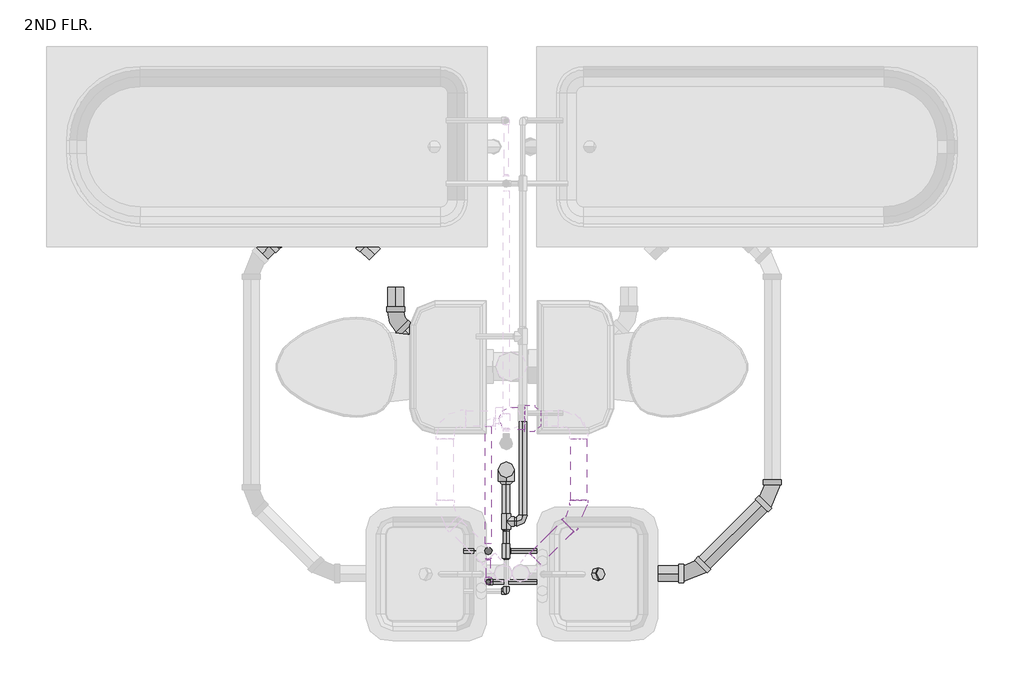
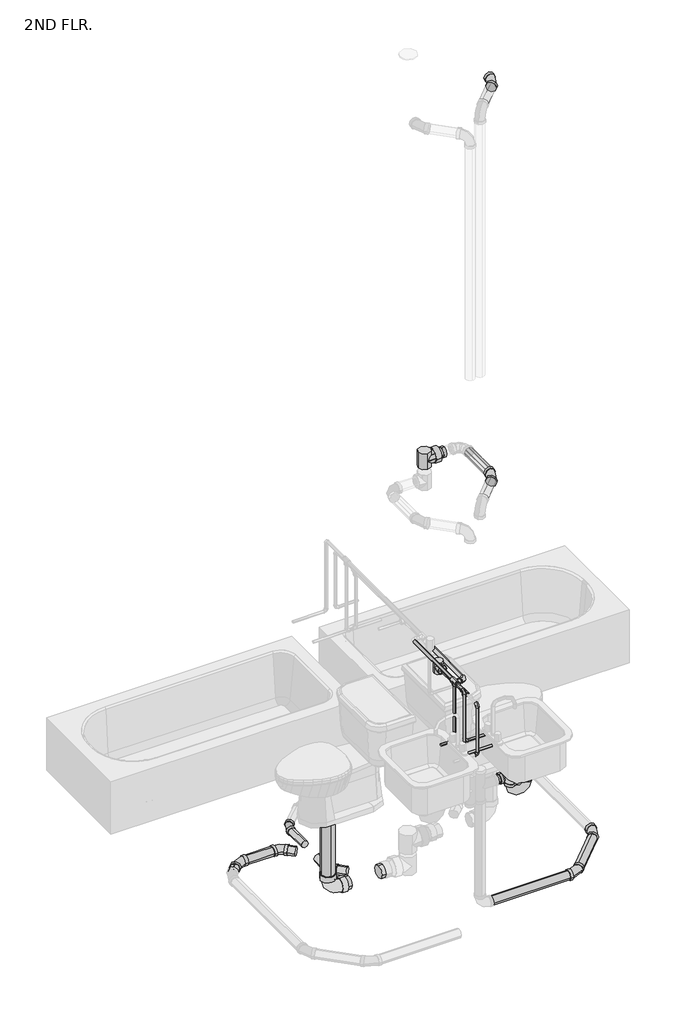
# One storey, part 10 of 15: 31 pipe segments, 29 pipe fittings.
"""IFC4 building model written with IfcOpenShell, lengths in millimetres."""

from ifc_helpers import new_model, si_unit, point, frame, frame_2d, origin, place, context, project, spatial, circle_curve, trimmed, segment, composite_curve, outline, extrude, transform, mapped, element, save
from components import bend_pvc_sch_40_dwv_standard_e59a9f3a, bend_pvc_sch_40_dwv_standard_f2f5988a, bend_pvc_sch_40_dwv_standard_dc84db8a, bend_pvc_sch_40_dwv_standard_64a347df, bend_pvc_sch_40_dwv_standard_72717ed5, bend_pvc_sch_40_dwv_standard_f64d1520, pipe_elbow_copper_k_aad62f2d, pipe_elbow_copper_k_a25a5501, pipe_tee_copper_k_36278b8a, pipe_tee_copper_k_ee363fbf, pipe_tee_copper_k_feafe2f1, pipe_tee_copper_k_8ae7f23d, pipe_transition_copper_k_859ff352, pipe_transition_copper_k_b4f16853, pipe_transition_copper_k_5cd7eb3f, reducer_pvc_sch_40_dwv_standard_464ee0c2, standard_8c31f35f

model = new_model("IFC4")

# Units and contexts
model_context = context("Model", 3, world=origin())
ifc_project = project(units=[si_unit("LENGTHUNIT", "METRE", prefix="MILLI")], contexts=[model_context])

# Site, building, storey
site = spatial("IfcSite", under=ifc_project)
building = spatial("IfcBuilding", under=site)
storey = spatial("IfcBuildingStorey", under=building, Name="2ND FLR.", Elevation=2844.8)

# Pipe fittings
placement = place(None, origin())
bend_pvc_sch_40_dwv_standard_shape = bend_pvc_sch_40_dwv_standard_e59a9f3a(model_context)
element("IfcPipeFitting", 1, ObjectType="Bend - PVC - Sch 40 - DWV : Standard", at=placement, inside=storey, context=model_context, shape_type="MappedRepresentation", body=[
    mapped(bend_pvc_sch_40_dwv_standard_shape, transform((16500.2806203, 3984.74622, 2302.6025627), x_axis=(-0.7071067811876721, -0.7071067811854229, 0.0), y_axis=(0.7071067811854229, -0.7071067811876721, 0.0), z_axis=(0.0, 0.0, 1.0))),
])
bend_pvc_sch_40_dwv_standard_2_shape = bend_pvc_sch_40_dwv_standard_f2f5988a(model_context)
element("IfcPipeFitting", 2, ObjectType="Bend - PVC - Sch 40 - DWV : Standard", at=placement, inside=storey, context=model_context, shape_type="MappedRepresentation", body=[
    mapped(bend_pvc_sch_40_dwv_standard_2_shape, transform((16059.6819172, 3819.5043328, 2302.6162639), x_axis=(-1.0, 0.0, 0.0), y_axis=(0.0, -1.0, 0.0), z_axis=(0.0, 0.0, 1.0))),
])
bend_pvc_sch_40_dwv_standard_3_shape = bend_pvc_sch_40_dwv_standard_dc84db8a(model_context)
element("IfcPipeFitting", 3, ObjectType="Bend - PVC - Sch 40 - DWV : Standard", at=placement, inside=storey, context=model_context, shape_type="MappedRepresentation", body=[
    mapped(bend_pvc_sch_40_dwv_standard_3_shape, transform((16389.9214747, 3321.8387881, 2301.0059441), x_axis=(-0.9999739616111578, 0.0, -0.0072163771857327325), y_axis=(-0.0072163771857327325, 0.0, 0.9999739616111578), z_axis=(0.0, 1.0, 0.0))),
])
bend_pvc_sch_40_dwv_standard_4_shape = bend_pvc_sch_40_dwv_standard_64a347df(model_context)
element("IfcPipeFitting", 4, ObjectType="Bend - PVC - Sch 40 - DWV : Standard", at=placement, inside=storey, context=model_context, shape_type="MappedRepresentation", body=[
    mapped(bend_pvc_sch_40_dwv_standard_4_shape, transform((16500.2806203, 3498.1957368, 2302.6025627), x_axis=(0.0, -1.0, 0.0), y_axis=(0.9999186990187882, 0.0, 0.012751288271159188), z_axis=(-0.012751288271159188, 0.0, 0.9999186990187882))),
])
bend_pvc_sch_40_dwv_standard_5_shape = bend_pvc_sch_40_dwv_standard_72717ed5(model_context)
element("IfcPipeFitting", 5, ObjectType="Bend - PVC - Sch 40 - DWV : Standard", at=placement, inside=storey, context=model_context, shape_type="MappedRepresentation", body=[
    mapped(bend_pvc_sch_40_dwv_standard_5_shape, transform((16349.8654903, 3819.5043328, 2302.6162639), x_axis=(-0.7071067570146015, 0.7071067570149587, 0.00026147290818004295), y_axis=(-0.707106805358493, -0.7071067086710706, -0.0002614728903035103), z_axis=(0.0, -0.00036977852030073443, 0.9999999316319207))),
])
bend_pvc_sch_40_dwv_standard_6_shape = bend_pvc_sch_40_dwv_standard_f64d1520(model_context)
element("IfcPipeFitting", 6, ObjectType="Bend - PVC - Sch 40 - DWV : Standard", at=placement, inside=storey, context=model_context, shape_type="MappedRepresentation", body=[
    mapped(bend_pvc_sch_40_dwv_standard_6_shape, transform((17633.9937605, 2535.4334772, 2461.1578227), x_axis=(-0.70710678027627, -0.7071067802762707, -5.074103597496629e-05), y_axis=(0.7071067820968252, -0.7071067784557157, -5.074103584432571e-05), z_axis=(0.0, -7.175866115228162e-05, 0.9999999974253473))),
])
element("IfcPipeFitting", 7, ObjectType="Bend - PVC - Sch 40 - DWV : Standard", at=placement, inside=storey, context=model_context, shape_type="MappedRepresentation", body=[
    mapped(bend_pvc_sch_40_dwv_standard_6_shape, transform((17932.9116554, 2834.3513728, 2461.1421724), x_axis=(0.0, -1.0, 0.0), y_axis=(0.9999999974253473, 0.0, -7.175866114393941e-05), z_axis=(7.175866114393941e-05, 0.0, 0.9999999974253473))),
])
element("IfcPipeFitting", 8, ObjectType="Bend - PVC - Sch 40 - DWV : Standard", at=placement, inside=storey, context=model_context, shape_type="MappedRepresentation", body=[
    mapped(bend_pvc_sch_40_dwv_standard_6_shape, transform((17196.3084874, 2755.8988068, 8191.4918111), x_axis=(2.761384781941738e-10, -0.9999999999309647, 1.1750347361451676e-05), y_axis=(0.9999999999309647, 1.3806781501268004e-10, -1.1750347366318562e-05), z_axis=(1.1750347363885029e-05, 1.175034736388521e-05, 0.9999999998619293))),
])
element("IfcPipeFitting", 9, ObjectType="Bend - PVC - Sch 40 - DWV : Standard", at=placement, inside=storey, context=model_context, shape_type="MappedRepresentation", body=[
    mapped(bend_pvc_sch_40_dwv_standard_6_shape, transform((17196.3084882, 2756.7793027, 5340.4113469), x_axis=(2.761384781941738e-10, -0.9999999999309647, 1.1750347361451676e-05), y_axis=(0.9999999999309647, 1.3806781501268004e-10, -1.1750347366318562e-05), z_axis=(1.1750347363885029e-05, 1.175034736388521e-05, 0.9999999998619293))),
])
pipe_elbow_copper_k_shape = pipe_elbow_copper_k_aad62f2d(model_context)
element("IfcPipeFitting", 10, ObjectType="Pipe Elbow : Copper- K", at=placement, inside=storey, context=model_context, shape_type="MappedRepresentation", body=[
    mapped(pipe_elbow_copper_k_shape, transform((16920.4834875, 2468.1949561, 3962.4), x_axis=(0.0, -1.0, 0.0), y_axis=(0.0, 0.0, -1.0), z_axis=(1.0, 0.0, 0.0))),
])
element("IfcPipeFitting", 11, ObjectType="Pipe Elbow : Copper- K", at=placement, inside=storey, context=model_context, shape_type="MappedRepresentation", body=[
    mapped(pipe_elbow_copper_k_shape, transform((16920.4834875, 2468.1949561, 3606.8), x_axis=(0.0, 0.0, -1.0), y_axis=(-1.0, 0.0, 0.0), z_axis=(0.0, 1.0, 0.0))),
])
element("IfcPipeFitting", 12, ObjectType="Pipe Elbow : Copper- K", at=placement, inside=storey, context=model_context, shape_type="MappedRepresentation", body=[
    mapped(pipe_elbow_copper_k_shape, transform((16920.4834875, 2620.8535326, 3606.8), x_axis=(0.0, 0.0, -1.0), y_axis=(1.0, 0.0, 0.0), z_axis=(0.0, -1.0, 0.0))),
])
element("IfcPipeFitting", 13, ObjectType="Pipe Elbow : Copper- K", at=placement, inside=storey, context=model_context, shape_type="MappedRepresentation", body=[
    mapped(pipe_elbow_copper_k_shape, transform((16852.2209875, 2503.1307452, 4064.0), x_axis=(0.0, -1.0, 0.0), y_axis=(0.0, 0.0, -1.0), z_axis=(1.0, 0.0, 0.0))),
])
element("IfcPipeFitting", 14, ObjectType="Pipe Elbow : Copper- K", at=placement, inside=storey, context=model_context, shape_type="MappedRepresentation", body=[
    mapped(pipe_elbow_copper_k_shape, transform((16852.2209875, 2503.1307452, 3606.8), x_axis=(0.0, 0.0, -1.0), y_axis=(1.0, 0.0, 0.0), z_axis=(0.0, -1.0, 0.0))),
])
element("IfcPipeFitting", 15, ObjectType="Pipe Elbow : Copper- K", at=placement, inside=storey, context=model_context, shape_type="MappedRepresentation", body=[
    mapped(pipe_elbow_copper_k_shape, transform((16852.2209875, 2620.8535326, 3637.2601563), x_axis=(0.0, 0.0, -1.0), y_axis=(-1.0, 0.0, 0.0), z_axis=(0.0, 1.0, 0.0))),
])
pipe_elbow_copper_k_2_shape = pipe_elbow_copper_k_a25a5501(model_context)
element("IfcPipeFitting", 16, ObjectType="Pipe Elbow : Copper- K", at=placement, inside=storey, context=model_context, shape_type="MappedRepresentation", body=[
    mapped(pipe_elbow_copper_k_2_shape, transform((16983.9834875, 2733.1182853, 3962.4), x_axis=(1.0, 0.0, 0.0), y_axis=(0.0, 1.0, 0.0), z_axis=(0.0, 0.0, 1.0))),
])
pipe_tee_copper_k_shape = pipe_tee_copper_k_36278b8a(model_context)
element("IfcPipeFitting", 17, ObjectType="Pipe Tee : Copper- K", at=placement, inside=storey, context=model_context, shape_type="MappedRepresentation", body=[
    mapped(pipe_tee_copper_k_shape, transform((16920.4834875, 2929.398977, 3962.4), x_axis=(0.0, 0.0, 1.0), y_axis=(0.0, 1.0, 0.0), z_axis=(-1.0, 0.0, 0.0))),
])
pipe_tee_copper_k_2_shape = pipe_tee_copper_k_ee363fbf(model_context)
element("IfcPipeFitting", 18, ObjectType="Pipe Tee : Copper- K", at=placement, inside=storey, context=model_context, shape_type="MappedRepresentation", body=[
    mapped(pipe_tee_copper_k_2_shape, transform((16920.4834875, 2620.8535326, 3962.4), x_axis=(0.0, 1.0, 0.0), y_axis=(0.0, 0.0, 1.0), z_axis=(1.0, 0.0, 0.0))),
])
element("IfcPipeFitting", 19, ObjectType="Pipe Tee : Copper- K", at=placement, inside=storey, context=model_context, shape_type="MappedRepresentation", body=[
    mapped(pipe_tee_copper_k_2_shape, transform((16852.2209875, 2620.8535326, 4064.0), x_axis=(0.0, 1.0, 0.0), y_axis=(0.0, 0.0, 1.0), z_axis=(1.0, 0.0, 0.0))),
])
pipe_tee_copper_k_3_shape = pipe_tee_copper_k_feafe2f1(model_context)
element("IfcPipeFitting", 20, ObjectType="Pipe Tee : Copper- K", at=placement, inside=storey, context=model_context, shape_type="MappedRepresentation", body=[
    mapped(pipe_tee_copper_k_3_shape, transform((16920.4834875, 2733.1182853, 3962.4), x_axis=(0.0, 1.0, 0.0), y_axis=(-1.0, 0.0, 0.0), z_axis=(0.0, 0.0, 1.0))),
])
pipe_tee_copper_k_4_shape = pipe_tee_copper_k_8ae7f23d(model_context)
element("IfcPipeFitting", 21, ObjectType="Pipe Tee : Standard", at=placement, inside=storey, context=model_context, shape_type="MappedRepresentation", body=[
    mapped(pipe_tee_copper_k_4_shape, transform((16935.7559337, 3124.1638117, 5340.35), x_axis=(0.0, 0.0, 1.0), y_axis=(1.0, 0.0, 0.0), z_axis=(0.0, 1.0, 0.0))),
])
pipe_transition_copper_k_shape = pipe_transition_copper_k_859ff352(model_context)
element("IfcPipeFitting", 22, ObjectType="Pipe Transition : Copper- K", at=placement, inside=storey, context=model_context, shape_type="MappedRepresentation", body=[
    mapped(pipe_transition_copper_k_shape, transform((16920.4834875, 2620.8535326, 3935.4125), x_axis=(0.0, 0.0, -1.0), y_axis=(0.0, 1.0, 0.0), z_axis=(1.0, 0.0, 0.0))),
])
element("IfcPipeFitting", 23, ObjectType="Pipe Transition : Copper- K", at=placement, inside=storey, context=model_context, shape_type="MappedRepresentation", body=[
    mapped(pipe_transition_copper_k_shape, transform((16920.4834875, 2593.8660326, 3962.4), x_axis=(0.0, -1.0, 0.0), y_axis=(1.0, 0.0, 0.0), z_axis=(0.0, 0.0, 1.0))),
])
element("IfcPipeFitting", 24, ObjectType="Pipe Transition : Copper- K", at=placement, inside=storey, context=model_context, shape_type="MappedRepresentation", body=[
    mapped(pipe_transition_copper_k_shape, transform((16852.2209875, 2620.8535326, 4037.0125), x_axis=(0.0, 0.0, -1.0), y_axis=(0.0, -1.0, 0.0), z_axis=(-1.0, 0.0, 0.0))),
])
element("IfcPipeFitting", 25, ObjectType="Pipe Transition : Copper- K", at=placement, inside=storey, context=model_context, shape_type="MappedRepresentation", body=[
    mapped(pipe_transition_copper_k_shape, transform((16852.2209875, 2593.8660326, 4064.0), x_axis=(0.0, -1.0, 0.0), y_axis=(1.0, 0.0, 0.0), z_axis=(0.0, 0.0, 1.0))),
])
pipe_transition_copper_k_2_shape = pipe_transition_copper_k_b4f16853(model_context)
element("IfcPipeFitting", 26, ObjectType="Pipe Transition : Copper- K", at=placement, inside=storey, context=model_context, shape_type="MappedRepresentation", body=[
    mapped(pipe_transition_copper_k_2_shape, transform((16920.4834875, 2702.9557853, 3962.4), x_axis=(0.0, -1.0, 0.0), y_axis=(1.0, 0.0, 0.0), z_axis=(0.0, 0.0, 1.0))),
])
pipe_transition_copper_k_3_shape = pipe_transition_copper_k_5cd7eb3f(model_context)
element("IfcPipeFitting", 27, ObjectType="Pipe Transition : Copper- K", at=placement, inside=storey, context=model_context, shape_type="MappedRepresentation", body=[
    mapped(pipe_transition_copper_k_3_shape, transform((16920.4834875, 2886.536477, 3962.4), x_axis=(0.0, -1.0, 0.0), y_axis=(1.0, 0.0, 0.0), z_axis=(0.0, 0.0, 1.0))),
])
reducer_pvc_sch_40_dwv_standard_shape = reducer_pvc_sch_40_dwv_standard_464ee0c2(model_context)
element("IfcPipeFitting", 28, ObjectType="Reducer - PVC - Sch 40 - DWV : Standard", at=placement, inside=storey, context=model_context, shape_type="MappedRepresentation", body=[
    mapped(reducer_pvc_sch_40_dwv_standard_shape, transform((16991.3184337, 3124.2879719, 5340.4070012), x_axis=(1.0, 0.0, 0.0), y_axis=(0.0, 1.0, 0.0), z_axis=(0.0, 0.0, 1.0))),
])
standard_shape = standard_8c31f35f(model_context)
element("IfcPipeFitting", 29, ObjectType="GES P TRAP PVC Sch 40 - DWV : Standard", at=placement, inside=storey, context=model_context, shape_type="MappedRepresentation", body=[
    mapped(standard_shape, transform((17295.2470106, 2535.4334771, 3322.6721683), x_axis=(0.0, 0.0, -1.0), y_axis=(1.0, 0.0, 0.0), z_axis=(0.0, -1.0, 0.0))),
])

# Pipe segments
element("IfcPipeSegment", 30, ObjectType="Copper", at=placement, inside=storey, context=model_context, shape_type="SweptSolid", body=[
    extrude(outline(composite_curve([segment(trimmed(circle_curve(frame_2d((16920.4834875, 2468.1949561)), 7.9375), [point((16928.4209875, 2468.1949561))], [point((16920.4834875, 2460.2574561))], False, "CARTESIAN"), True, "CONTINUOUS"), segment(trimmed(circle_curve(frame_2d((16920.4834875, 2468.1949561)), 7.9375), [point((16920.4834875, 2460.2574561))], [point((16912.5459875, 2468.1949561))], False, "CARTESIAN"), True, "CONTINUOUS"), segment(trimmed(circle_curve(frame_2d((16920.4834875, 2468.1949561)), 7.9375), [point((16912.5459875, 2468.1949561))], [point((16920.4834875, 2476.1324561))], False, "CARTESIAN"), True, "CONTINUOUS"), segment(trimmed(circle_curve(frame_2d((16920.4834875, 2468.1949561)), 7.9375), [point((16920.4834875, 2476.1324561))], [point((16928.4209875, 2468.1949561))], False, "CARTESIAN"), True, "CONTINUOUS")], self_intersect=False)), frame((0.0, 0.0, 3624.2625), z_axis=(0.0, 0.0, 1.0), x_axis=(1.0, 0.0, 0.0)), (0.0, 0.0, 1.0), 320.675),
])
element("IfcPipeSegment", 31, ObjectType="Copper", at=placement, inside=storey, context=model_context, shape_type="SweptSolid", body=[
    extrude(outline(composite_curve([segment(trimmed(circle_curve(frame_2d((2620.8535326, 3606.8)), 7.9375), [point((2612.9160326, 3606.8))], [point((2620.8535326, 3614.7375))], False, "CARTESIAN"), True, "CONTINUOUS"), segment(trimmed(circle_curve(frame_2d((2620.8535326, 3606.8)), 7.9375), [point((2620.8535326, 3614.7375))], [point((2628.7910326, 3606.8))], False, "CARTESIAN"), True, "CONTINUOUS"), segment(trimmed(circle_curve(frame_2d((2620.8535326, 3606.8)), 7.9375), [point((2628.7910326, 3606.8))], [point((2620.8535326, 3598.8625))], False, "CARTESIAN"), True, "CONTINUOUS"), segment(trimmed(circle_curve(frame_2d((2620.8535326, 3606.8)), 7.9375), [point((2620.8535326, 3598.8625))], [point((2612.9160326, 3606.8))], False, "CARTESIAN"), True, "CONTINUOUS")], self_intersect=False)), frame((16937.9459875, 0.0, 0.0), z_axis=(1.0, 0.0, 0.0), x_axis=(0.0, 1.0, 0.0)), (0.0, 0.0, 1.0), 133.35),
])
element("IfcPipeSegment", 32, ObjectType="Copper", at=placement, inside=storey, context=model_context, shape_type="SweptSolid", body=[
    extrude(outline(composite_curve([segment(trimmed(circle_curve(frame_2d((16920.4834875, 2620.8535326)), 7.9375), [point((16928.4209875, 2620.8535326))], [point((16920.4834875, 2612.9160326))], False, "CARTESIAN"), True, "CONTINUOUS"), segment(trimmed(circle_curve(frame_2d((16920.4834875, 2620.8535326)), 7.9375), [point((16920.4834875, 2612.9160326))], [point((16912.5459875, 2620.8535326))], False, "CARTESIAN"), True, "CONTINUOUS"), segment(trimmed(circle_curve(frame_2d((16920.4834875, 2620.8535326)), 7.9375), [point((16912.5459875, 2620.8535326))], [point((16920.4834875, 2628.7910326))], False, "CARTESIAN"), True, "CONTINUOUS"), segment(trimmed(circle_curve(frame_2d((16920.4834875, 2620.8535326)), 7.9375), [point((16920.4834875, 2628.7910326))], [point((16928.4209875, 2620.8535326))], False, "CARTESIAN"), True, "CONTINUOUS")], self_intersect=False)), frame((0.0, 0.0, 3624.2625), z_axis=(0.0, 0.0, 1.0), x_axis=(1.0, 0.0, 0.0)), (0.0, 0.0, 1.0), 305.59375),
])
element("IfcPipeSegment", 33, ObjectType="Copper", at=placement, inside=storey, context=model_context, shape_type="SweptSolid", body=[
    extrude(outline(composite_curve([segment(trimmed(circle_curve(frame_2d((3962.4, 16920.4834875)), 11.1125), [point((3962.4, 16909.3709875))], [point((3951.2875, 16920.4834875))], False, "CARTESIAN"), True, "CONTINUOUS"), segment(trimmed(circle_curve(frame_2d((3962.4, 16920.4834875)), 11.1125), [point((3951.2875, 16920.4834875))], [point((3962.4, 16931.5959875))], False, "CARTESIAN"), True, "CONTINUOUS"), segment(trimmed(circle_curve(frame_2d((3962.4, 16920.4834875)), 11.1125), [point((3962.4, 16931.5959875))], [point((3973.5125, 16920.4834875))], False, "CARTESIAN"), True, "CONTINUOUS"), segment(trimmed(circle_curve(frame_2d((3962.4, 16920.4834875)), 11.1125), [point((3973.5125, 16920.4834875))], [point((3962.4, 16909.3709875))], False, "CARTESIAN"), True, "CONTINUOUS")], self_intersect=False)), frame((0.0, 2647.8410326, 0.0), z_axis=(0.0, 1.0, 0.0), x_axis=(0.0, 0.0, 1.0)), (0.0, 0.0, 1.0), 47.9710027),
])
element("IfcPipeSegment", 34, ObjectType="Copper", at=placement, inside=storey, context=model_context, shape_type="SweptSolid", body=[
    extrude(outline(composite_curve([segment(trimmed(circle_curve(frame_2d((4064.0, 16852.2209875)), 7.9375), [point((4064.0, 16844.2834875))], [point((4056.0625, 16852.2209875))], False, "CARTESIAN"), True, "CONTINUOUS"), segment(trimmed(circle_curve(frame_2d((4064.0, 16852.2209875)), 7.9375), [point((4056.0625, 16852.2209875))], [point((4064.0, 16860.1584875))], False, "CARTESIAN"), True, "CONTINUOUS"), segment(trimmed(circle_curve(frame_2d((4064.0, 16852.2209875)), 7.9375), [point((4064.0, 16860.1584875))], [point((4071.9375, 16852.2209875))], False, "CARTESIAN"), True, "CONTINUOUS"), segment(trimmed(circle_curve(frame_2d((4064.0, 16852.2209875)), 7.9375), [point((4071.9375, 16852.2209875))], [point((4064.0, 16844.2834875))], False, "CARTESIAN"), True, "CONTINUOUS")], self_intersect=False)), frame((0.0, 2520.5932452, 0.0), z_axis=(0.0, 1.0, 0.0), x_axis=(0.0, 0.0, 1.0)), (0.0, 0.0, 1.0), 67.7165373),
])
element("IfcPipeSegment", 35, ObjectType="Copper", at=placement, inside=storey, context=model_context, shape_type="SweptSolid", body=[
    extrude(outline(composite_curve([segment(trimmed(circle_curve(frame_2d((2503.1307452, 3606.8)), 7.9375), [point((2495.1932452, 3606.8))], [point((2503.1307452, 3614.7375))], False, "CARTESIAN"), True, "CONTINUOUS"), segment(trimmed(circle_curve(frame_2d((2503.1307452, 3606.8)), 7.9375), [point((2503.1307452, 3614.7375))], [point((2511.0682452, 3606.8))], False, "CARTESIAN"), True, "CONTINUOUS"), segment(trimmed(circle_curve(frame_2d((2503.1307452, 3606.8)), 7.9375), [point((2511.0682452, 3606.8))], [point((2503.1307452, 3598.8625))], False, "CARTESIAN"), True, "CONTINUOUS"), segment(trimmed(circle_curve(frame_2d((2503.1307452, 3606.8)), 7.9375), [point((2503.1307452, 3598.8625))], [point((2495.1932452, 3606.8))], False, "CARTESIAN"), True, "CONTINUOUS")], self_intersect=False)), frame((16869.6834875, 0.0, 0.0), z_axis=(1.0, 0.0, 0.0), x_axis=(0.0, 1.0, 0.0)), (0.0, 0.0, 1.0), 166.6875),
])
element("IfcPipeSegment", 36, ObjectType="Copper", at=placement, inside=storey, context=model_context, shape_type="SweptSolid", body=[
    extrude(outline(composite_curve([segment(trimmed(circle_curve(frame_2d((16852.2209875, 2503.1307452)), 7.9375), [point((16860.1584875, 2503.1307452))], [point((16852.2209875, 2495.1932452))], False, "CARTESIAN"), True, "CONTINUOUS"), segment(trimmed(circle_curve(frame_2d((16852.2209875, 2503.1307452)), 7.9375), [point((16852.2209875, 2495.1932452))], [point((16844.2834875, 2503.1307452))], False, "CARTESIAN"), True, "CONTINUOUS"), segment(trimmed(circle_curve(frame_2d((16852.2209875, 2503.1307452)), 7.9375), [point((16844.2834875, 2503.1307452))], [point((16852.2209875, 2511.0682452))], False, "CARTESIAN"), True, "CONTINUOUS"), segment(trimmed(circle_curve(frame_2d((16852.2209875, 2503.1307452)), 7.9375), [point((16852.2209875, 2511.0682452))], [point((16860.1584875, 2503.1307452))], False, "CARTESIAN"), True, "CONTINUOUS")], self_intersect=False)), frame((0.0, 0.0, 3624.2625), z_axis=(0.0, 0.0, 1.0), x_axis=(1.0, 0.0, 0.0)), (0.0, 0.0, 1.0), 422.275),
])
element("IfcPipeSegment", 37, ObjectType="Copper", at=placement, inside=storey, context=model_context, shape_type="SweptSolid", body=[
    extrude(outline(composite_curve([segment(trimmed(circle_curve(frame_2d((2620.8535326, 3637.2601562)), 7.9375), [point((2628.7910326, 3637.2601562))], [point((2620.8535326, 3629.3226562))], False, "CARTESIAN"), True, "CONTINUOUS"), segment(trimmed(circle_curve(frame_2d((2620.8535326, 3637.2601562)), 7.9375), [point((2620.8535326, 3629.3226562))], [point((2612.9160326, 3637.2601562))], False, "CARTESIAN"), True, "CONTINUOUS"), segment(trimmed(circle_curve(frame_2d((2620.8535326, 3637.2601562)), 7.9375), [point((2612.9160326, 3637.2601562))], [point((2620.8535326, 3645.1976562))], False, "CARTESIAN"), True, "CONTINUOUS"), segment(trimmed(circle_curve(frame_2d((2620.8535326, 3637.2601562)), 7.9375), [point((2620.8535326, 3645.1976562))], [point((2628.7910326, 3637.2601562))], False, "CARTESIAN"), True, "CONTINUOUS")], self_intersect=False)), frame((16758.5584875, 0.0, 0.0), z_axis=(1.0, 0.0, 0.0), x_axis=(0.0, 1.0, 0.0)), (0.0, 0.0, 1.0), 76.2),
])
element("IfcPipeSegment", 38, ObjectType="Copper", at=placement, inside=storey, context=model_context, shape_type="SweptSolid", body=[
    extrude(outline(composite_curve([segment(trimmed(circle_curve(frame_2d((16852.2209875, 2620.8535326)), 7.9375), [point((16860.1584875, 2620.8535326))], [point((16852.2209875, 2612.9160326))], False, "CARTESIAN"), True, "CONTINUOUS"), segment(trimmed(circle_curve(frame_2d((16852.2209875, 2620.8535326)), 7.9375), [point((16852.2209875, 2612.9160326))], [point((16844.2834875, 2620.8535326))], False, "CARTESIAN"), True, "CONTINUOUS"), segment(trimmed(circle_curve(frame_2d((16852.2209875, 2620.8535326)), 7.9375), [point((16844.2834875, 2620.8535326))], [point((16852.2209875, 2628.7910326))], False, "CARTESIAN"), True, "CONTINUOUS"), segment(trimmed(circle_curve(frame_2d((16852.2209875, 2620.8535326)), 7.9375), [point((16852.2209875, 2628.7910326))], [point((16860.1584875, 2620.8535326))], False, "CARTESIAN"), True, "CONTINUOUS")], self_intersect=False)), frame((0.0, 0.0, 3654.7226562), z_axis=(0.0, 0.0, 1.0), x_axis=(1.0, 0.0, 0.0)), (0.0, 0.0, 1.0), 376.7335937),
])
element("IfcPipeSegment", 39, ObjectType="Copper", at=placement, inside=storey, context=model_context, shape_type="SweptSolid", body=[
    extrude(outline(composite_curve([segment(trimmed(circle_curve(frame_2d((4064.0, 16852.2209875)), 11.1125), [point((4064.0, 16841.1084875))], [point((4052.8875, 16852.2209875))], False, "CARTESIAN"), True, "CONTINUOUS"), segment(trimmed(circle_curve(frame_2d((4064.0, 16852.2209875)), 11.1125), [point((4052.8875, 16852.2209875))], [point((4064.0, 16863.3334875))], False, "CARTESIAN"), True, "CONTINUOUS"), segment(trimmed(circle_curve(frame_2d((4064.0, 16852.2209875)), 11.1125), [point((4064.0, 16863.3334875))], [point((4075.1125, 16852.2209875))], False, "CARTESIAN"), True, "CONTINUOUS"), segment(trimmed(circle_curve(frame_2d((4064.0, 16852.2209875)), 11.1125), [point((4075.1125, 16852.2209875))], [point((4064.0, 16841.1084875))], False, "CARTESIAN"), True, "CONTINUOUS")], self_intersect=False)), frame((0.0, 2647.8410326, 0.0), z_axis=(0.0, 1.0, 0.0), x_axis=(0.0, 0.0, 1.0)), (0.0, 0.0, 1.0), 446.7666062),
])
element("IfcPipeSegment", 40, ObjectType="Copper", at=placement, inside=storey, context=model_context, shape_type="SweptSolid", body=[
    extrude(outline(composite_curve([segment(trimmed(circle_curve(frame_2d((2733.1182853, 3962.4)), 14.2875), [point((2718.8307853, 3962.4))], [point((2733.1182853, 3976.6875))], False, "CARTESIAN"), True, "CONTINUOUS"), segment(trimmed(circle_curve(frame_2d((2733.1182853, 3962.4)), 14.2875), [point((2733.1182853, 3976.6875))], [point((2747.4057853, 3962.4))], False, "CARTESIAN"), True, "CONTINUOUS"), segment(trimmed(circle_curve(frame_2d((2733.1182853, 3962.4)), 14.2875), [point((2747.4057853, 3962.4))], [point((2733.1182853, 3948.1125))], False, "CARTESIAN"), True, "CONTINUOUS"), segment(trimmed(circle_curve(frame_2d((2733.1182853, 3962.4)), 14.2875), [point((2733.1182853, 3948.1125))], [point((2718.8307853, 3962.4))], False, "CARTESIAN"), True, "CONTINUOUS")], self_intersect=False)), frame((16950.6459875, 0.0, 0.0), z_axis=(1.0, 0.0, 0.0), x_axis=(0.0, 1.0, 0.0)), (0.0, 0.0, 1.0), 9.525),
])
element("IfcPipeSegment", 41, ObjectType="Copper", at=placement, inside=storey, context=model_context, shape_type="SweptSolid", body=[
    extrude(outline(composite_curve([segment(trimmed(circle_curve(frame_2d((3962.4, 16920.4834875)), 14.2875), [point((3962.4, 16934.7709875))], [point((3976.6875, 16920.4834875))], False, "CARTESIAN"), True, "CONTINUOUS"), segment(trimmed(circle_curve(frame_2d((3962.4, 16920.4834875)), 14.2875), [point((3976.6875, 16920.4834875))], [point((3962.4, 16906.1959875))], False, "CARTESIAN"), True, "CONTINUOUS"), segment(trimmed(circle_curve(frame_2d((3962.4, 16920.4834875)), 14.2875), [point((3962.4, 16906.1959875))], [point((3948.1125, 16920.4834875))], False, "CARTESIAN"), True, "CONTINUOUS"), segment(trimmed(circle_curve(frame_2d((3962.4, 16920.4834875)), 14.2875), [point((3948.1125, 16920.4834875))], [point((3962.4, 16934.7709875))], False, "CARTESIAN"), True, "CONTINUOUS")], self_intersect=False)), frame((0.0, 2763.2807853, 0.0), z_axis=(0.0, 1.0, 0.0), x_axis=(0.0, 0.0, 1.0)), (0.0, 0.0, 1.0), 109.7619417),
])
element("IfcPipeSegment", 42, ObjectType="Copper", at=placement, inside=storey, context=model_context, shape_type="SweptSolid", body=[
    extrude(outline(composite_curve([segment(trimmed(circle_curve(frame_2d((3962.4, 16983.9834875)), 14.2875), [point((3962.4, 16998.2709875))], [point((3976.6875, 16983.9834875))], False, "CARTESIAN"), True, "CONTINUOUS"), segment(trimmed(circle_curve(frame_2d((3962.4, 16983.9834875)), 14.2875), [point((3976.6875, 16983.9834875))], [point((3962.4, 16969.6959875))], False, "CARTESIAN"), True, "CONTINUOUS"), segment(trimmed(circle_curve(frame_2d((3962.4, 16983.9834875)), 14.2875), [point((3962.4, 16969.6959875))], [point((3948.1125, 16983.9834875))], False, "CARTESIAN"), True, "CONTINUOUS"), segment(trimmed(circle_curve(frame_2d((3962.4, 16983.9834875)), 14.2875), [point((3948.1125, 16983.9834875))], [point((3962.4, 16998.2709875))], False, "CARTESIAN"), True, "CONTINUOUS")], self_intersect=False)), frame((0.0, 2756.9307853, 0.0), z_axis=(0.0, 1.0, 0.0), x_axis=(0.0, 0.0, 1.0)), (0.0, 0.0, 1.0), 357.7813964),
])
element("IfcPipeSegment", 43, ObjectType="PVC - SAN/STORM", at=placement, inside=storey, context=model_context, shape_type="SweptSolid", body=[
    extrude(outline(composite_curve([segment(trimmed(circle_curve(frame_2d((17295.2470106, 2535.781534)), 30.1625), [point((17265.0845106, 2535.781534))], [point((17295.2470106, 2565.944034))], False, "CARTESIAN"), True, "CONTINUOUS"), segment(trimmed(circle_curve(frame_2d((17295.2470106, 2535.781534)), 30.1625), [point((17295.2470106, 2565.944034))], [point((17325.4095106, 2535.781534))], False, "CARTESIAN"), True, "CONTINUOUS"), segment(trimmed(circle_curve(frame_2d((17295.2470106, 2535.781534)), 30.1625), [point((17325.4095106, 2535.781534))], [point((17295.2470106, 2505.619034))], False, "CARTESIAN"), True, "CONTINUOUS"), segment(trimmed(circle_curve(frame_2d((17295.2470106, 2535.781534)), 30.1625), [point((17295.2470106, 2505.619034))], [point((17265.0845106, 2535.781534))], False, "CARTESIAN"), True, "CONTINUOUS")], self_intersect=False)), frame((0.0, 0.0, 3275.0471683), z_axis=(0.0, 0.0, 1.0), x_axis=(1.0, 0.0, 0.0)), (0.0, 0.0, 1.0), 143.9539175),
])
element("IfcPipeSegment", 44, ObjectType="PVC - SAN/STORM", at=placement, inside=storey, context=model_context, shape_type="SweptSolid", body=[
    extrude(outline(composite_curve([segment(trimmed(circle_curve(frame_2d((2535.4334771, 3322.6721683)), 30.1625), [point((2565.5959771, 3322.6721683))], [point((2535.4334771, 3292.5096683))], False, "CARTESIAN"), True, "CONTINUOUS"), segment(trimmed(circle_curve(frame_2d((2535.4334771, 3322.6721683)), 30.1625), [point((2535.4334771, 3292.5096683))], [point((2505.2709771, 3322.6721683))], False, "CARTESIAN"), True, "CONTINUOUS"), segment(trimmed(circle_curve(frame_2d((2535.4334771, 3322.6721683)), 30.1625), [point((2505.2709771, 3322.6721683))], [point((2535.4334771, 3352.8346683))], False, "CARTESIAN"), True, "CONTINUOUS"), segment(trimmed(circle_curve(frame_2d((2535.4334771, 3322.6721683)), 30.1625), [point((2535.4334771, 3352.8346683))], [point((2565.5959771, 3322.6721683))], False, "CARTESIAN"), True, "CONTINUOUS")], self_intersect=False)), frame((17088.6830071, 0.0, 0.0), z_axis=(1.0, 0.0, 0.0), x_axis=(0.0, 1.0, 0.0)), (0.0, 0.0, 1.0), 14.4765036),
])
element("IfcPipeSegment", 45, ObjectType="PVC - SAN/STORM", at=placement, inside=storey, context=model_context, shape_type="SweptSolid", body=[
    extrude(outline(composite_curve([segment(trimmed(circle_curve(frame_2d((17295.2470106, 2535.4334771)), 30.1625), [point((17265.0845106, 2535.4334771))], [point((17295.2470106, 2565.5959771))], False, "CARTESIAN"), True, "CONTINUOUS"), segment(trimmed(circle_curve(frame_2d((17295.2470106, 2535.4334771)), 30.1625), [point((17295.2470106, 2565.5959771))], [point((17325.4095106, 2535.4334771))], False, "CARTESIAN"), True, "CONTINUOUS"), segment(trimmed(circle_curve(frame_2d((17295.2470106, 2535.4334771)), 30.1625), [point((17325.4095106, 2535.4334771))], [point((17295.2470106, 2505.2709771))], False, "CARTESIAN"), True, "CONTINUOUS"), segment(trimmed(circle_curve(frame_2d((17295.2470106, 2535.4334771)), 30.1625), [point((17295.2470106, 2505.2709771))], [point((17265.0845106, 2535.4334771))], False, "CARTESIAN"), True, "CONTINUOUS")], self_intersect=False)), frame((0.0, 0.0, 3275.0471683), z_axis=(0.0, 0.0, 1.0), x_axis=(1.0, 0.0, 0.0)), (0.0, 0.0, 1.0), 143.9539175),
])
element("IfcPipeSegment", 46, ObjectType="PVC - SAN/STORM", at=placement, inside=storey, context=model_context, shape_type="SweptSolid", body=[
    extrude(outline(composite_curve([segment(trimmed(circle_curve(frame_2d((2535.4334771, 2461.1578227)), 30.1625), [point((2505.2709771, 2461.1578227))], [point((2535.4334771, 2491.3203227))], False, "CARTESIAN"), True, "CONTINUOUS"), segment(trimmed(circle_curve(frame_2d((2535.4334771, 2461.1578227)), 30.1625), [point((2535.4334771, 2491.3203227))], [point((2565.5959771, 2461.1578227))], False, "CARTESIAN"), True, "CONTINUOUS"), segment(trimmed(circle_curve(frame_2d((2535.4334771, 2461.1578227)), 30.1625), [point((2565.5959771, 2461.1578227))], [point((2535.4334771, 2430.9953227))], False, "CARTESIAN"), True, "CONTINUOUS"), segment(trimmed(circle_curve(frame_2d((2535.4334771, 2461.1578227)), 30.1625), [point((2535.4334771, 2430.9953227))], [point((2505.2709771, 2461.1578227))], False, "CARTESIAN"), True, "CONTINUOUS")], self_intersect=False)), frame((17053.2349258, 0.0, 0.0), z_axis=(1.0, 0.0, 0.0), x_axis=(0.0, 1.0, 0.0)), (0.0, 0.0, 1.0), 523.6088347),
])
element("IfcPipeSegment", 47, ObjectType="PVC - SAN/STORM", at=placement, inside=storey, context=model_context, shape_type="SweptSolid", body=[
    extrude(outline(composite_curve([segment(trimmed(circle_curve(frame_2d((0.0, -30.1625)), 30.1625), [point((30.1625, -30.1640305))], [point((-0.0015304, -60.325))], False, "CARTESIAN"), True, "CONTINUOUS"), segment(trimmed(circle_curve(frame_2d((0.0, -30.1625)), 30.1625), [point((-0.0015304, -60.325))], [point((-30.1624999, -30.1609695))], False, "CARTESIAN"), True, "CONTINUOUS"), segment(trimmed(circle_curve(frame_2d((0.0, -30.1625)), 30.1625), [point((-30.1624999, -30.1609695))], [point((0.0015305, -1e-07))], False, "CARTESIAN"), True, "CONTINUOUS"), segment(trimmed(circle_curve(frame_2d((0.0, -30.1625)), 30.1625), [point((0.0015305, -1e-07))], [point((30.1625, -30.1640305))], False, "CARTESIAN"), True, "CONTINUOUS")], self_intersect=False)), frame((17892.500503, 2793.9423847, 2491.3075722), z_axis=(-0.7071067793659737, -0.7071067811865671, 5.074103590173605e-05), x_axis=(0.7071067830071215, -0.7071067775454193, 5.074103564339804e-05)), (0.0, 0.0, 1.0), 308.4337421),
])
element("IfcPipeSegment", 48, ObjectType="PVC - SAN/STORM", at=placement, inside=storey, context=model_context, shape_type="SweptSolid", body=[
    extrude(outline(composite_curve([segment(trimmed(circle_curve(frame_2d((5340.3411396, 17196.3084874)), 30.1625), [point((5340.3411396, 17226.4709874))], [point((5370.5036396, 17196.3084874))], False, "CARTESIAN"), True, "CONTINUOUS"), segment(trimmed(circle_curve(frame_2d((5340.3411396, 17196.3084874)), 30.1625), [point((5370.5036396, 17196.3084874))], [point((5340.3411396, 17166.1459874))], False, "CARTESIAN"), True, "CONTINUOUS"), segment(trimmed(circle_curve(frame_2d((5340.3411396, 17196.3084874)), 30.1625), [point((5340.3411396, 17166.1459874))], [point((5310.1786396, 17196.3084874))], False, "CARTESIAN"), True, "CONTINUOUS"), segment(trimmed(circle_curve(frame_2d((5340.3411396, 17196.3084874)), 30.1625), [point((5310.1786396, 17196.3084874))], [point((5340.3411396, 17226.4709874))], False, "CARTESIAN"), True, "CONTINUOUS")], self_intersect=False)), frame((0.0, 2813.4570848, 0.0), z_axis=(0.0, 1.0, 0.0), x_axis=(0.0, 0.0, 1.0)), (0.0, 0.0, 1.0), 233.0306862),
])
element("IfcPipeSegment", 49, ObjectType="PVC - SAN/STORM", at=placement, inside=storey, context=model_context, shape_type="SweptSolid", body=[
    extrude(outline(composite_curve([segment(trimmed(circle_curve(frame_2d((0.0, -44.45)), 44.45), [point((0.0, 0.0))], [point((44.45, -44.45))], False, "CARTESIAN"), True, "CONTINUOUS"), segment(trimmed(circle_curve(frame_2d((0.0, -44.45)), 44.45), [point((44.45, -44.45))], [point((0.0, -88.9))], False, "CARTESIAN"), True, "CONTINUOUS"), segment(trimmed(circle_curve(frame_2d((0.0, -44.45)), 44.45), [point((0.0, -88.9))], [point((-44.45, -44.45))], False, "CARTESIAN"), True, "CONTINUOUS"), segment(trimmed(circle_curve(frame_2d((0.0, -44.45)), 44.45), [point((-44.45, -44.45))], [point((0.0, 0.0))], False, "CARTESIAN"), True, "CONTINUOUS")], self_intersect=False)), frame((16736.9609983, 3366.2887881, 2303.5103774), z_axis=(0.9999739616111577, 0.0, 0.007216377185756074), x_axis=(0.007216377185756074, 0.0, -0.9999739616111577)), (0.0, 0.0, 1.0), 27.3516837),
])
element("IfcPipeSegment", 50, ObjectType="PVC - SAN/STORM", at=placement, inside=storey, context=model_context, shape_type="SweptSolid", body=[
    extrude(outline(composite_curve([segment(trimmed(circle_curve(frame_2d((0.0, 44.45)), 44.45), [point((-44.4499999, 44.45))], [point((0.0, 88.9))], False, "CARTESIAN"), True, "CONTINUOUS"), segment(trimmed(circle_curve(frame_2d((0.0, 44.45)), 44.45), [point((0.0, 88.9))], [point((44.45, 44.45))], False, "CARTESIAN"), True, "CONTINUOUS"), segment(trimmed(circle_curve(frame_2d((0.0, 44.45)), 44.45), [point((44.45, 44.45))], [point((0.0, 0.0))], False, "CARTESIAN"), True, "CONTINUOUS"), segment(trimmed(circle_curve(frame_2d((0.0, 44.45)), 44.45), [point((0.0, 0.0))], [point((-44.4499999, 44.45))], False, "CARTESIAN"), True, "CONTINUOUS")], self_intersect=False)), frame((16389.9214747, 3277.3887881, 2416.9061441), z_axis=(-3.1436736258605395e-05, 0.0, 0.9999999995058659), x_axis=(0.9999999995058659, 0.0, 3.1436736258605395e-05)), (0.0, 0.0, 1.0), 427.8938561),
])
element("IfcPipeSegment", 51, ObjectType="PVC - SAN/STORM", at=placement, inside=storey, context=model_context, shape_type="SweptSolid", body=[
    extrude(outline(composite_curve([segment(trimmed(circle_curve(frame_2d((0.0, 30.1625)), 30.1625), [point((30.1624999, 30.1625))], [point((0.0, 0.0))], False, "CARTESIAN"), True, "CONTINUOUS"), segment(trimmed(circle_curve(frame_2d((0.0, 30.1625)), 30.1625), [point((0.0, 0.0))], [point((-30.1625, 30.1625))], False, "CARTESIAN"), True, "CONTINUOUS"), segment(trimmed(circle_curve(frame_2d((0.0, 30.1625)), 30.1625), [point((-30.1625, 30.1625))], [point((0.0, 60.325))], False, "CARTESIAN"), True, "CONTINUOUS"), segment(trimmed(circle_curve(frame_2d((0.0, 30.1625)), 30.1625), [point((0.0, 60.325))], [point((30.1624999, 30.1625))], False, "CARTESIAN"), True, "CONTINUOUS")], self_intersect=False)), frame((16580.0998157, 3418.3765414, 2333.2375495), z_axis=(-0.7071067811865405, 0.7071067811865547, 0.0), x_axis=(0.7071067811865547, 0.7071067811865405, 0.0)), (0.0, 0.0, 1.0), 60.4833189),
])
element("IfcPipeSegment", 52, ObjectType="PVC - SAN/STORM", at=placement, inside=storey, context=model_context, shape_type="SweptSolid", body=[
    extrude(outline(composite_curve([segment(trimmed(circle_curve(frame_2d((0.0, 44.45)), 44.45), [point((0.0, 0.0))], [point((-44.45, 44.45))], False, "CARTESIAN"), True, "CONTINUOUS"), segment(trimmed(circle_curve(frame_2d((0.0, 44.45)), 44.45), [point((-44.45, 44.45))], [point((0.0, 88.9))], False, "CARTESIAN"), True, "CONTINUOUS"), segment(trimmed(circle_curve(frame_2d((0.0, 44.45)), 44.45), [point((0.0, 88.9))], [point((44.45, 44.45))], False, "CARTESIAN"), True, "CONTINUOUS"), segment(trimmed(circle_curve(frame_2d((0.0, 44.45)), 44.45), [point((44.45, 44.45))], [point((0.0, 0.0))], False, "CARTESIAN"), True, "CONTINUOUS")], self_intersect=False)), frame((16505.8186569, 3277.3887881, 2301.8423237), z_axis=(0.9999739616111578, 0.0, 0.007216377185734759), x_axis=(0.007216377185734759, 0.0, -0.9999739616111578)), (0.0, 0.0, 1.0), 25.3928701),
])
element("IfcPipeSegment", 53, ObjectType="PVC - SAN/STORM", at=placement, inside=storey, context=model_context, shape_type="SweptSolid", body=[
    extrude(outline(composite_curve([segment(trimmed(circle_curve(frame_2d((2302.6025627, 16500.2806203)), 24.13), [point((2302.6025627, 16524.4106203))], [point((2326.7325627, 16500.2806203))], False, "CARTESIAN"), True, "CONTINUOUS"), segment(trimmed(circle_curve(frame_2d((2302.6025627, 16500.2806203)), 24.13), [point((2326.7325627, 16500.2806203))], [point((2302.6025627, 16476.1506203))], False, "CARTESIAN"), True, "CONTINUOUS"), segment(trimmed(circle_curve(frame_2d((2302.6025627, 16500.2806203)), 24.13), [point((2302.6025627, 16476.1506203))], [point((2278.4725627, 16500.2806203))], False, "CARTESIAN"), True, "CONTINUOUS"), segment(trimmed(circle_curve(frame_2d((2302.6025627, 16500.2806203)), 24.13), [point((2278.4725627, 16500.2806203))], [point((2302.6025627, 16524.4106203))], False, "CARTESIAN"), True, "CONTINUOUS")], self_intersect=False)), frame((0.0, 3786.1149404, 0.0), z_axis=(0.0, 1.0, 0.0), x_axis=(0.0, 0.0, 1.0)), (0.0, 0.0, 1.0), 152.6064796),
])
element("IfcPipeSegment", 54, ObjectType="PVC - SAN/STORM", at=placement, inside=storey, context=model_context, shape_type="SweptSolid", body=[
    extrude(outline(composite_curve([segment(trimmed(circle_curve(frame_2d((0.0, 30.1625)), 30.1625), [point((30.1625, 30.1625))], [point((0.0, 0.0))], False, "CARTESIAN"), True, "CONTINUOUS"), segment(trimmed(circle_curve(frame_2d((0.0, 30.1625)), 30.1625), [point((0.0, 0.0))], [point((-30.1625, 30.1625))], False, "CARTESIAN"), True, "CONTINUOUS"), segment(trimmed(circle_curve(frame_2d((0.0, 30.1625)), 30.1625), [point((-30.1625, 30.1625))], [point((0.0, 60.325))], False, "CARTESIAN"), True, "CONTINUOUS"), segment(trimmed(circle_curve(frame_2d((0.0, 30.1625)), 30.1625), [point((0.0, 60.325))], [point((30.1625, 30.1625))], False, "CARTESIAN"), True, "CONTINUOUS")], self_intersect=False)), frame((15992.0689907, 3751.8914063, 2332.7787639), z_axis=(0.7071067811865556, 0.7071067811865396, 0.0), x_axis=(0.7071067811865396, -0.7071067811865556, 0.0)), (0.0, 0.0, 1.0), 38.4691177),
])
element("IfcPipeSegment", 55, ObjectType="PVC - SAN/STORM", at=placement, inside=storey, context=model_context, shape_type="SweptSolid", body=[
    extrude(outline(composite_curve([segment(trimmed(circle_curve(frame_2d((3819.5043328, 2302.6162639)), 30.1625), [point((3789.3418328, 2302.6162639))], [point((3819.5043328, 2332.7787639))], False, "CARTESIAN"), True, "CONTINUOUS"), segment(trimmed(circle_curve(frame_2d((3819.5043328, 2302.6162639)), 30.1625), [point((3819.5043328, 2332.7787639))], [point((3849.6668328, 2302.6162639))], False, "CARTESIAN"), True, "CONTINUOUS"), segment(trimmed(circle_curve(frame_2d((3819.5043328, 2302.6162639)), 30.1625), [point((3849.6668328, 2302.6162639))], [point((3819.5043328, 2272.4537639))], False, "CARTESIAN"), True, "CONTINUOUS"), segment(trimmed(circle_curve(frame_2d((3819.5043328, 2302.6162639)), 30.1625), [point((3819.5043328, 2272.4537639))], [point((3789.3418328, 2302.6162639))], False, "CARTESIAN"), True, "CONTINUOUS")], self_intersect=False)), frame((16116.8319172, 0.0, 0.0), z_axis=(1.0, 0.0, 0.0), x_axis=(0.0, 1.0, 0.0)), (0.0, 0.0, 1.0), 180.6333732),
])
element("IfcPipeSegment", 56, ObjectType="PVC - SAN/STORM", at=placement, inside=storey, context=model_context, shape_type="SweptSolid", body=[
    extrude(outline(composite_curve([segment(trimmed(circle_curve(frame_2d((0.0, 30.1625)), 30.1625), [point((30.1625, 30.1625))], [point((0.0, 0.0))], False, "CARTESIAN"), True, "CONTINUOUS"), segment(trimmed(circle_curve(frame_2d((0.0, 30.1625)), 30.1625), [point((0.0, 0.0))], [point((-30.1625, 30.1625))], False, "CARTESIAN"), True, "CONTINUOUS"), segment(trimmed(circle_curve(frame_2d((0.0, 30.1625)), 30.1625), [point((-30.1625, 30.1625))], [point((0.0, 60.325))], False, "CARTESIAN"), True, "CONTINUOUS"), segment(trimmed(circle_curve(frame_2d((0.0, 30.1625)), 30.1625), [point((0.0, 60.325))], [point((30.1625, 30.1625))], False, "CARTESIAN"), True, "CONTINUOUS")], self_intersect=False)), frame((16420.2019927, 3749.1678305, 2332.7650627), z_axis=(-0.7071067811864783, 0.7071067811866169, 0.0), x_axis=(0.7071067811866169, 0.7071067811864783, 0.0)), (0.0, 0.0, 1.0), 47.0706373),
])
element("IfcPipeSegment", 57, ObjectType="PVC - SAN/STORM", at=placement, inside=storey, context=model_context, shape_type="SweptSolid", body=[
    extrude(outline(composite_curve([segment(trimmed(circle_curve(frame_2d((2302.6025627, 16500.2806203)), 30.1625), [point((2302.6025627, 16530.4431203))], [point((2332.7650627, 16500.2806203))], False, "CARTESIAN"), True, "CONTINUOUS"), segment(trimmed(circle_curve(frame_2d((2302.6025627, 16500.2806203)), 30.1625), [point((2332.7650627, 16500.2806203))], [point((2302.6025627, 16470.1181203))], False, "CARTESIAN"), True, "CONTINUOUS"), segment(trimmed(circle_curve(frame_2d((2302.6025627, 16500.2806203)), 30.1625), [point((2302.6025627, 16470.1181203))], [point((2272.4400627, 16500.2806203))], False, "CARTESIAN"), True, "CONTINUOUS"), segment(trimmed(circle_curve(frame_2d((2302.6025627, 16500.2806203)), 30.1625), [point((2272.4400627, 16500.2806203))], [point((2302.6025627, 16530.4431203))], False, "CARTESIAN"), True, "CONTINUOUS")], self_intersect=False)), frame((0.0, 3550.5959368, 0.0), z_axis=(0.0, 1.0, 0.0), x_axis=(0.0, 0.0, 1.0)), (0.0, 0.0, 1.0), 74.3250473),
])
element("IfcPipeSegment", 58, ObjectType="PVC - SAN/STORM", at=placement, inside=storey, context=model_context, shape_type="SweptSolid", body=[
    extrude(outline(composite_curve([segment(trimmed(circle_curve(frame_2d((0.0, 30.1625)), 30.1625), [point((30.1624999, 30.1625))], [point((0.0, 0.0))], False, "CARTESIAN"), True, "CONTINUOUS"), segment(trimmed(circle_curve(frame_2d((0.0, 30.1625)), 30.1625), [point((0.0, 0.0))], [point((-30.1625, 30.1625))], False, "CARTESIAN"), True, "CONTINUOUS"), segment(trimmed(circle_curve(frame_2d((0.0, 30.1625)), 30.1625), [point((-30.1625, 30.1625))], [point((0.0, 60.325))], False, "CARTESIAN"), True, "CONTINUOUS"), segment(trimmed(circle_curve(frame_2d((0.0, 30.1625)), 30.1625), [point((0.0, 60.325))], [point((30.1624999, 30.1625))], False, "CARTESIAN"), True, "CONTINUOUS")], self_intersect=False)), frame((17030.4478518, 2590.0381711, 8221.658209), z_axis=(0.707106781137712, 0.7071067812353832, 0.0), x_axis=(0.7071067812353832, -0.707106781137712, 0.0)), (0.0, 0.0, 1.0), 177.4123605),
])
element("IfcPipeSegment", 59, ObjectType="PVC - SAN/STORM", at=placement, inside=storey, context=model_context, shape_type="SweptSolid", body=[
    extrude(outline(composite_curve([segment(trimmed(circle_curve(frame_2d((0.0, 30.1625)), 30.1625), [point((30.1624999, 30.1625))], [point((0.0, 0.0))], False, "CARTESIAN"), True, "CONTINUOUS"), segment(trimmed(circle_curve(frame_2d((0.0, 30.1625)), 30.1625), [point((0.0, 0.0))], [point((-30.1625, 30.1625))], False, "CARTESIAN"), True, "CONTINUOUS"), segment(trimmed(circle_curve(frame_2d((0.0, 30.1625)), 30.1625), [point((-30.1625, 30.1625))], [point((0.0, 60.325))], False, "CARTESIAN"), True, "CONTINUOUS"), segment(trimmed(circle_curve(frame_2d((0.0, 30.1625)), 30.1625), [point((0.0, 60.325))], [point((30.1624999, 30.1625))], False, "CARTESIAN"), True, "CONTINUOUS")], self_intersect=False)), frame((17030.3857717, 2590.8565861, 5370.5747966), z_axis=(0.7071067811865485, 0.7071067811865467, 0.0), x_axis=(0.7071067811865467, -0.7071067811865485, 0.0)), (0.0, 0.0, 1.0), 177.5001561),
])
element("IfcPipeSegment", 60, ObjectType="PVC - SAN/STORM", at=placement, inside=storey, context=model_context, shape_type="SweptSolid", body=[
    extrude(outline(composite_curve([segment(trimmed(circle_curve(frame_2d((0.0, -30.1625)), 30.1625), [point((0.0, -60.325))], [point((-30.1625, -30.1625))], False, "CARTESIAN"), True, "CONTINUOUS"), segment(trimmed(circle_curve(frame_2d((0.0, -30.1625)), 30.1625), [point((-30.1625, -30.1625))], [point((0.0, 0.0))], False, "CARTESIAN"), True, "CONTINUOUS"), segment(trimmed(circle_curve(frame_2d((0.0, -30.1625)), 30.1625), [point((0.0, 0.0))], [point((30.1625, -30.1625))], False, "CARTESIAN"), True, "CONTINUOUS"), segment(trimmed(circle_curve(frame_2d((0.0, -30.1625)), 30.1625), [point((30.1625, -30.1625))], [point((0.0, -60.325))], False, "CARTESIAN"), True, "CONTINUOUS")], self_intersect=False)), frame((17166.1460504, 3046.4564799, 5340.3923737), z_axis=(-2.6745381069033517e-07, -0.9999999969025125, 7.870770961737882e-05), x_axis=(2.105338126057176e-11, 7.870770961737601e-05, 0.9999999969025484)), (0.0, 0.0, 1.0), 232.5271699),
])

save(model, "model.ifc")
